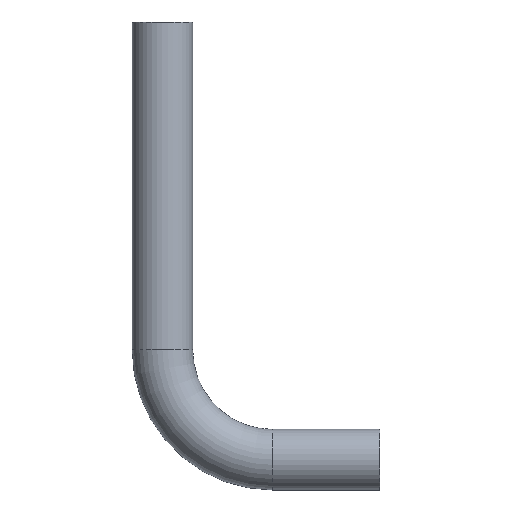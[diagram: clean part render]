
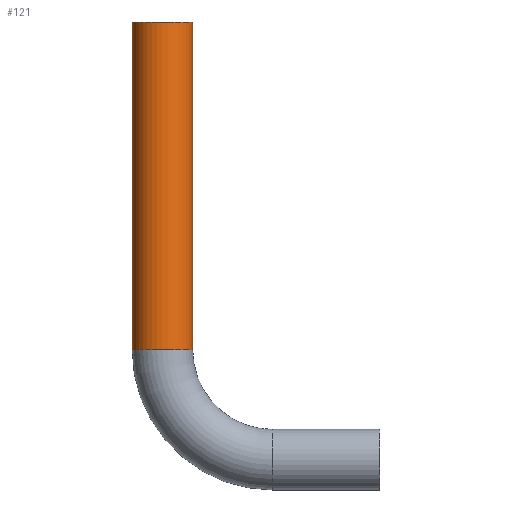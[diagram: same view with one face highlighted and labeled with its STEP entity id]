
A CAD part, top view. The second image highlights one B-rep face of the part: STEP entity #121.
In plain terms, the highlighted cylindrical face has radius 55 mm (diameter 110 mm), a partial arc.
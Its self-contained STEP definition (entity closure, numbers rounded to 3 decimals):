
#27 = AXIS2_PLACEMENT_3D ( 'NONE', #444, #325, #326 ) ;
#42 = CYLINDRICAL_SURFACE ( 'NONE', #27, 55. ) ;
#65 = AXIS2_PLACEMENT_3D ( 'NONE', #153, #152, #151 ) ;
#70 = CIRCLE ( 'NONE', #65, 55. ) ;
#73 = AXIS2_PLACEMENT_3D ( 'NONE', #159, #158, #157 ) ;
#76 = CIRCLE ( 'NONE', #73, 55. ) ;
#79 = VECTOR ( 'NONE', #156, 1000. ) ;
#81 = VECTOR ( 'NONE', #164, 1000. ) ;
#108 = EDGE_CURVE ( 'NONE', #242, #249, #171, .T. ) ;
#109 = EDGE_CURVE ( 'NONE', #248, #249, #76, .T. ) ;
#110 = EDGE_CURVE ( 'NONE', #243, #248, #160, .T. ) ;
#111 = EDGE_CURVE ( 'NONE', #243, #242, #70, .T. ) ;
#121 = ADVANCED_FACE ( 'NONE', ( #138 ), #42, .T. ) ;
#138 = FACE_OUTER_BOUND ( 'NONE', #312, .T. ) ;
#151 = DIRECTION ( 'NONE',  ( 0., 0., -1. ) ) ;
#152 = DIRECTION ( 'NONE',  ( 0., -1., 0. ) ) ;
#153 = CARTESIAN_POINT ( 'NONE',  ( -395., 200., 0. ) ) ;
#156 = DIRECTION ( 'NONE',  ( 0., 1., 0. ) ) ;
#157 = DIRECTION ( 'NONE',  ( 0., 0., -1. ) ) ;
#158 = DIRECTION ( 'NONE',  ( 0., -1., 0. ) ) ;
#159 = CARTESIAN_POINT ( 'NONE',  ( -395., 795., 0. ) ) ;
#160 = LINE ( 'NONE', #185, #79 ) ;
#164 = DIRECTION ( 'NONE',  ( 0., 1., 0. ) ) ;
#171 = LINE ( 'NONE', #184, #81 ) ;
#184 = CARTESIAN_POINT ( 'NONE',  ( -450., 200., 0. ) ) ;
#185 = CARTESIAN_POINT ( 'NONE',  ( -340., 200., 0. ) ) ;
#242 = VERTEX_POINT ( 'NONE', #361 ) ;
#243 = VERTEX_POINT ( 'NONE', #362 ) ;
#248 = VERTEX_POINT ( 'NONE', #367 ) ;
#249 = VERTEX_POINT ( 'NONE', #368 ) ;
#259 = ORIENTED_EDGE ( 'NONE', *, *, #111, .F. ) ;
#260 = ORIENTED_EDGE ( 'NONE', *, *, #110, .T. ) ;
#261 = ORIENTED_EDGE ( 'NONE', *, *, #109, .T. ) ;
#262 = ORIENTED_EDGE ( 'NONE', *, *, #108, .F. ) ;
#312 = EDGE_LOOP ( 'NONE', ( #259, #260, #261, #262 ) ) ;
#325 = DIRECTION ( 'NONE',  ( 0., 1., 0. ) ) ;
#326 = DIRECTION ( 'NONE',  ( -1., 0., 0. ) ) ;
#361 = CARTESIAN_POINT ( 'NONE',  ( -450., 200., 0. ) ) ;
#362 = CARTESIAN_POINT ( 'NONE',  ( -340., 200., 0. ) ) ;
#367 = CARTESIAN_POINT ( 'NONE',  ( -340., 795., 0. ) ) ;
#368 = CARTESIAN_POINT ( 'NONE',  ( -450., 795., 0. ) ) ;
#444 = CARTESIAN_POINT ( 'NONE',  ( -395., 200., 0. ) ) ;
